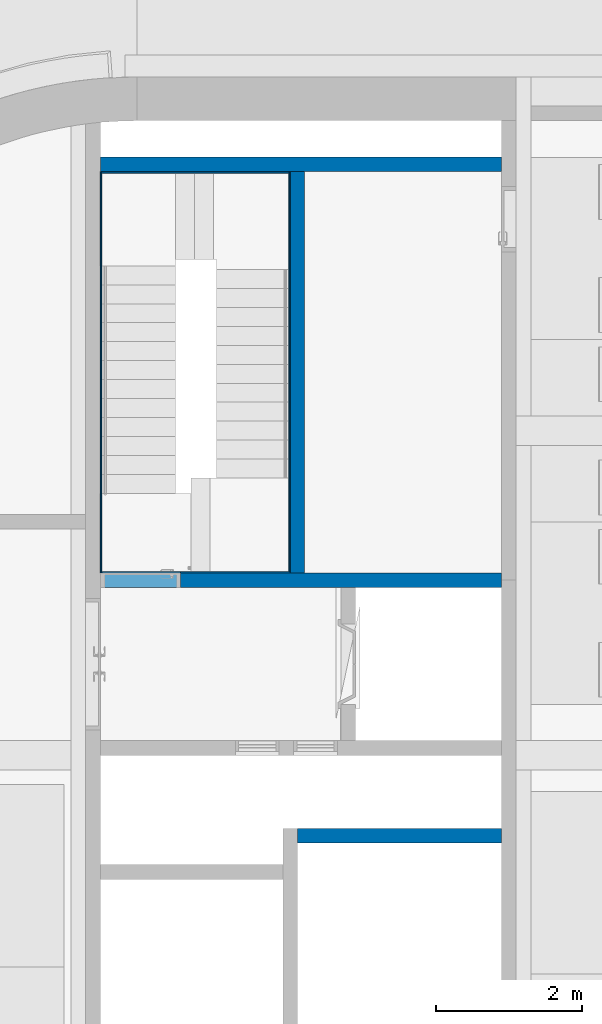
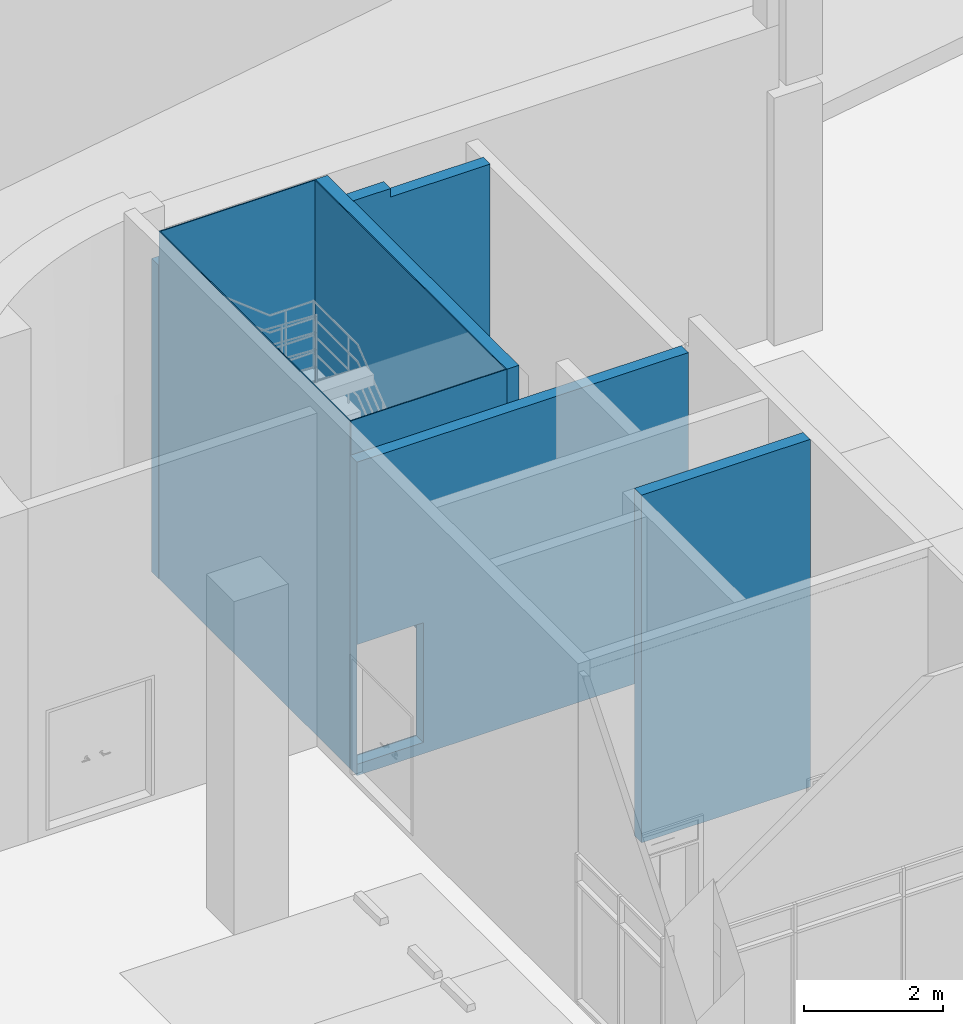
# One storey, part 12 of 29: 8 walls, 2 openings.
"""IFC2X3 building model written with IfcOpenShell, lengths in millimetres."""

from ifc_helpers import new_model, entity, si_unit, converted_unit, derived_unit, direction, frame, frame_2d, origin, place, context, subcontext, project, spatial, polyline, rectangle, extrude, clip, bounded_halfspace, material, layer, layer_set, layer_usage, type_object, element, save


model = new_model("IFC2X3")

# Units and contexts
model_context = context("Model", 3, precision=0.01, world=origin(), true_north=direction((6.123031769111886e-17, 1.0)))
body_context = subcontext(model_context, "Body", "Model", "MODEL_VIEW")
ifc_project = project(units=[si_unit("LENGTHUNIT", "METRE", prefix="MILLI"), si_unit("AREAUNIT", "SQUARE_METRE"), si_unit("VOLUMEUNIT", "CUBIC_METRE"), converted_unit("PLANEANGLEUNIT", "DEGREE", entity("IfcRatioMeasure", 0.017453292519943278), si_unit("PLANEANGLEUNIT", "RADIAN"), dimensions=[0, 0, 0, 0, 0, 0, 0]), si_unit("MASSUNIT", "GRAM", prefix="KILO"), derived_unit("MASSDENSITYUNIT", [(si_unit("MASSUNIT", "GRAM", prefix="KILO"), 1), (si_unit("LENGTHUNIT", "METRE"), -3)]), derived_unit("MOMENTOFINERTIAUNIT", [(si_unit("LENGTHUNIT", "METRE"), 4)]), si_unit("TIMEUNIT", "SECOND"), si_unit("FREQUENCYUNIT", "HERTZ"), si_unit("THERMODYNAMICTEMPERATUREUNIT", "DEGREE_CELSIUS"), derived_unit("THERMALTRANSMITTANCEUNIT", [(si_unit("MASSUNIT", "GRAM", prefix="KILO"), 1), (si_unit("THERMODYNAMICTEMPERATUREUNIT", "KELVIN"), -1), (si_unit("TIMEUNIT", "SECOND"), -3)]), derived_unit("VOLUMETRICFLOWRATEUNIT", [(si_unit("LENGTHUNIT", "METRE"), 3), (si_unit("TIMEUNIT", "SECOND"), -1)]), derived_unit("MASSFLOWRATEUNIT", [(si_unit("MASSUNIT", "GRAM", prefix="KILO"), 1), (si_unit("TIMEUNIT", "SECOND"), -1)]), derived_unit("ROTATIONALFREQUENCYUNIT", [(si_unit("TIMEUNIT", "SECOND"), -1)]), si_unit("ELECTRICCURRENTUNIT", "AMPERE"), si_unit("ELECTRICVOLTAGEUNIT", "VOLT"), si_unit("POWERUNIT", "WATT"), si_unit("FORCEUNIT", "NEWTON", prefix="KILO"), si_unit("ILLUMINANCEUNIT", "LUX"), si_unit("LUMINOUSFLUXUNIT", "LUMEN"), si_unit("LUMINOUSINTENSITYUNIT", "CANDELA"), derived_unit("USERDEFINED", [(si_unit("MASSUNIT", "GRAM", prefix="KILO"), -1), (si_unit("LENGTHUNIT", "METRE"), -2), (si_unit("TIMEUNIT", "SECOND"), 3), (si_unit("LUMINOUSFLUXUNIT", "LUMEN"), 1)]), derived_unit("SOUNDPOWERUNIT", [(si_unit("MASSUNIT", "GRAM", prefix="KILO"), 1), (si_unit("LENGTHUNIT", "METRE"), 2), (si_unit("TIMEUNIT", "SECOND"), -3)]), derived_unit("SOUNDPRESSUREUNIT", [(si_unit("MASSUNIT", "GRAM", prefix="KILO"), 1), (si_unit("LENGTHUNIT", "METRE"), -1), (si_unit("TIMEUNIT", "SECOND"), -2)]), derived_unit("LINEARVELOCITYUNIT", [(si_unit("LENGTHUNIT", "METRE"), 1), (si_unit("TIMEUNIT", "SECOND"), -1)]), si_unit("PRESSUREUNIT", "PASCAL"), derived_unit("USERDEFINED", [(si_unit("LENGTHUNIT", "METRE"), -2), (si_unit("MASSUNIT", "GRAM", prefix="KILO"), 1), (si_unit("TIMEUNIT", "SECOND"), -2)]), derived_unit("LINEARFORCEUNIT", [(si_unit("MASSUNIT", "GRAM", prefix="KILO"), 1), (si_unit("LENGTHUNIT", "METRE"), 1), (si_unit("TIMEUNIT", "SECOND"), -2), (si_unit("LENGTHUNIT", "METRE"), -1)]), derived_unit("PLANARFORCEUNIT", [(si_unit("MASSUNIT", "GRAM", prefix="KILO"), 1), (si_unit("LENGTHUNIT", "METRE"), 1), (si_unit("TIMEUNIT", "SECOND"), -2), (si_unit("LENGTHUNIT", "METRE"), -2)])], contexts=[model_context])

# Site, building, storey
site_placement = place(None, frame((-14167.972527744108, -657.2125860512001, 0.0)))
site = spatial("IfcSite", under=ifc_project, at=site_placement, Name="Default", CompositionType="ELEMENT")
building_placement = place(site_placement, origin())
building = spatial("IfcBuilding", under=site, at=building_placement, Name="Sample Building", CompositionType="ELEMENT")
storey_placement = place(building_placement, frame((0.0, 0.0, -6100.0)))
storey = spatial("IfcBuildingStorey", under=building, at=storey_placement, Name="지하1층", CompositionType="ELEMENT", Elevation=-6099.999999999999)

# Walls
ifc_material_1 = material(Name="KBIMS-콘크리트")
ifc_layer_1 = layer(ifc_material_1, 200.0)
ifc_layer_set_1 = layer_set([ifc_layer_1], Name="기본 벽:WA111-철근콘크리트구조 벽 200mm_CW1")
ifc_layer_usage_1 = layer_usage(ifc_layer_set_1, "AXIS2", "NEGATIVE", 100.0)
wall_type_1 = type_object("IfcWallType", Name="기본 벽:WA111-철근콘크리트구조 벽 200mm_CW1", PredefinedType="STANDARD", material=ifc_layer_set_1)
wall_1_placement = place(storey_placement, frame((30266.125814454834, 28057.212307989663, 0.0)))
element("IfcWallStandardCase", 1, at=wall_1_placement, inside=storey, type_object=wall_type_1, material=ifc_layer_usage_1, Name="기본 벽:WA111-철근콘크리트구조 벽 200mm_CW1", ObjectType="기본 벽:WA111-철근콘크리트구조 벽 200mm_CW1", context=body_context, shape_type="Clipping", body=[
    clip(clip(extrude(rectangle(XDim=5501.846676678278, YDim=199.99999999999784, at=frame_2d((2750.923338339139, 0.0), x_axis=(-1.0, 0.0))), origin(), (0.0, 0.0, 1.0), 5500.0), bounded_halfspace(frame((3850.4073795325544, 100.0, 5350.0), z_axis=(0.0, 0.0, -1.0), x_axis=(0.0, 1.0, 0.0)), True, frame((3850.4073795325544, 100.0, 5350.0), z_axis=(0.0, 0.0, -1.0), x_axis=(0.0, 1.0, 0.0)), polyline([(0.0, 0.0), (0.0, 503358.6977700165), (-60960.0, 503358.6977700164), (-60960.0, 0.0), (0.0, 0.0)]))), bounded_halfspace(frame((3850.4073795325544, -100.0, 5350.0), z_axis=(-1.0, 0.0, 0.0), x_axis=(0.0, 0.0, 1.0)), True, frame((3850.4073795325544, -100.0, 5350.0), z_axis=(-1.0, 0.0, 0.0), x_axis=(0.0, 0.0, 1.0)), polyline([(0.0, 0.0), (45720.0, 0.0), (45720.0, 60960.0), (0.0, 60960.0), (0.0, 0.0)]))),
])
ifc_layer_usage_2 = layer_usage(ifc_layer_set_1, "AXIS2", "NEGATIVE", 100.0)
wall_2_placement = place(storey_placement, frame((32967.97249113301, 27957.212307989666, 0.0), z_axis=(0.0, 0.0, 1.0), x_axis=(0.0, -1.0, 0.0)))
element("IfcWallStandardCase", 2, at=wall_2_placement, inside=storey, type_object=wall_type_1, material=ifc_layer_usage_2, Name="기본 벽:WA111-철근콘크리트구조 벽 200mm_CW1", ObjectType="기본 벽:WA111-철근콘크리트구조 벽 200mm_CW1", context=body_context, shape_type="SweptSolid", body=[
    extrude(rectangle(XDim=5499.999996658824, YDim=199.99999999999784, at=frame_2d((2749.999998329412, -4.263256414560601e-14), x_axis=(-1.0, 0.0))), origin(), (0.0, 0.0, 1.0), 6100.0),
])

# Wall, opening
ifc_layer_2 = layer(ifc_material_1, 200.0)
ifc_layer_set_2 = layer_set([ifc_layer_2], Name="기본 벽:WA111-철근콘크리트구조 벽 200mm_CW2")
ifc_layer_usage_3 = layer_usage(ifc_layer_set_2, "AXIS2", "NEGATIVE", 100.0)
wall_type_2 = type_object("IfcWallType", Name="기본 벽:WA111-철근콘크리트구조 벽 200mm_CW2", PredefinedType="STANDARD", material=ifc_layer_set_2)
wall_3_placement = place(storey_placement, frame((30266.125814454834, 22357.21231133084, 0.0)))
wall_3 = element("IfcWallStandardCase", 3, at=wall_3_placement, inside=storey, type_object=wall_type_2, material=ifc_layer_usage_3, Name="기본 벽:WA111-철근콘크리트구조 벽 200mm_CW2", ObjectType="기본 벽:WA111-철근콘크리트구조 벽 200mm_CW2", context=body_context, shape_type="SweptSolid", body=[
    extrude(rectangle(XDim=5501.846676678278, YDim=199.99999999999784, at=frame_2d((2750.923338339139, 0.0), x_axis=(-1.0, 0.0))), origin(), (0.0, 0.0, 1.0), 5500.0),
])
opening_1_placement = place(wall_3_placement, frame((1.8466235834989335, -100.0, 200.0)))
element("IfcOpeningElement", 4, at=opening_1_placement, cuts=wall_3, Name="DR111-외여닫이문(철재, 일반):DR111-외여닫이문(철재, 일반) 1100x2100mm 2:1", ObjectType="Opening", context=body_context, shape_type="SweptSolid", body=[
    extrude(rectangle(XDim=2099.999999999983, YDim=1100.0, at=frame_2d((1049.9999999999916, 550.0000000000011), x_axis=(1.0, 0.0))), frame((0.0, 0.0, 0.0), z_axis=(0.0, 1.0, 0.0), x_axis=(0.0, 0.0, 1.0)), (0.0, 0.0, 1.0), 200.0),
])

# Walls
ifc_layer_usage_4 = layer_usage(ifc_layer_set_2, "AXIS2", "NEGATIVE", 100.0)
wall_4_placement = place(storey_placement, frame((32967.97271708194, 18857.21230965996, 0.0)))
element("IfcWallStandardCase", 5, at=wall_4_placement, inside=storey, type_object=wall_type_2, material=ifc_layer_usage_4, Name="기본 벽:WA111-철근콘크리트구조 벽 200mm_CW2", ObjectType="기본 벽:WA111-철근콘크리트구조 벽 200mm_CW2", context=body_context, shape_type="SweptSolid", body=[
    extrude(rectangle(XDim=2799.999774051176, YDim=200.0, at=frame_2d((1399.999887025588, -1.0871303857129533e-12), x_axis=(-1.0, 0.0))), origin(), (0.0, 0.0, 1.0), 6100.0),
])
ifc_material_2 = material(Name="WA611-수성페인트 (내부) 벽 (3회)")
ifc_layer_3 = layer(ifc_material_2, 1.0)
ifc_material_3 = material(Name="WA551-시멘트모르타르 (내부) 벽 18mm")
ifc_layer_4 = layer(ifc_material_3, 16.0)
ifc_material_4 = material(Name="WA555-콘크리트면정리 벽 (내부)")
ifc_layer_5 = layer(ifc_material_4, 1.0)
ifc_layer_set_3 = layer_set([ifc_layer_3, ifc_layer_4, ifc_layer_5], Name="기본 벽:A1-32-06A-콘크리트면정리, 시멘트모르타르(미장용), 수성페인트(내부) (18mm)")
ifc_layer_usage_5 = layer_usage(ifc_layer_set_3, "AXIS2", "POSITIVE", -9.000000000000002)
wall_type_3 = type_object("IfcWallType", Name="기본 벽:A1-32-06A-콘크리트면정리, 시멘트모르타르(미장용), 수성페인트(내부) (18mm)", PredefinedType="STANDARD", material=ifc_layer_set_3)
wall_5_placement = place(storey_placement, frame((30276.963761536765, 22457.194894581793, 0.0), z_axis=(0.0, 0.0, 1.0), x_axis=(0.0, 1.0, 0.0)))
element("IfcWallStandardCase", 6, at=wall_5_placement, inside=storey, type_object=wall_type_3, material=ifc_layer_usage_5, Name="기본 벽:A1-32-06A-콘크리트면정리, 시멘트모르타르(미장용), 수성페인트(내부) (18mm)", ObjectType="기본 벽:A1-32-06A-콘크리트면정리, 시멘트모르타르(미장용), 수성페인트(내부) (18mm)", context=body_context, shape_type="SweptSolid", body=[
    extrude(rectangle(XDim=5499.999996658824, YDim=18.00000000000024, at=frame_2d((2749.999998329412, -2.1662671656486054e-12), x_axis=(-1.0, 0.0))), origin(), (0.0, 0.0, 1.0), 6099.999999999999),
])

# Wall, opening
ifc_layer_usage_6 = layer_usage(ifc_layer_set_3, "AXIS2", "POSITIVE", -9.000000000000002)
wall_6_placement = place(storey_placement, frame((32867.97249113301, 22466.19489458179, 0.0), z_axis=(0.0, 0.0, 1.0), x_axis=(-1.0, 0.0, 0.0)))
wall_6 = element("IfcWallStandardCase", 7, at=wall_6_placement, inside=storey, type_object=wall_type_3, material=ifc_layer_usage_6, Name="기본 벽:A1-32-06A-콘크리트면정리, 시멘트모르타르(미장용), 수성페인트(내부) (18mm)", ObjectType="기본 벽:A1-32-06A-콘크리트면정리, 시멘트모르타르(미장용), 수성페인트(내부) (18mm)", context=body_context, shape_type="SweptSolid", body=[
    extrude(rectangle(XDim=2582.008729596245, YDim=18.00000000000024, at=frame_2d((1291.0043647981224, -2.1662671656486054e-12), x_axis=(-1.0, 0.0))), origin(), (0.0, 0.0, 1.0), 6099.999999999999),
])
opening_2_placement = place(wall_6_placement, origin())
element("IfcOpeningElement", 8, at=opening_2_placement, cuts=wall_6, Name="기본 벽:A1-32-06A-콘크리트면정리, 시멘트모르타르(미장용), 수성페인트(내부) (18mm)", ObjectType="Opening", context=body_context, shape_type="SweptSolid", body=[
    extrude(rectangle(XDim=2099.9999999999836, YDim=1100.0000000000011, at=frame_2d((0.0, 3.410605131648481e-13), x_axis=(0.0, 1.0))), frame((2050.000053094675, -1315.0174167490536, 1250.0), z_axis=(0.0, 1.0, 0.0), x_axis=(-1.0, 0.0, 0.0)), (0.0, 0.0, 1.0), 3048.0),
])

# Walls
ifc_layer_usage_7 = layer_usage(ifc_layer_set_3, "AXIS2", "POSITIVE", -9.000000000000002)
wall_7_placement = place(storey_placement, frame((32858.97249113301, 27957.194891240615, 0.0), z_axis=(0.0, 0.0, 1.0), x_axis=(0.0, -1.0, 0.0)))
element("IfcWallStandardCase", 9, at=wall_7_placement, inside=storey, type_object=wall_type_3, material=ifc_layer_usage_7, Name="기본 벽:A1-32-06A-콘크리트면정리, 시멘트모르타르(미장용), 수성페인트(내부) (18mm)", ObjectType="기본 벽:A1-32-06A-콘크리트면정리, 시멘트모르타르(미장용), 수성페인트(내부) (18mm)", context=body_context, shape_type="SweptSolid", body=[
    extrude(rectangle(XDim=5481.999996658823, YDim=18.00000000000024, at=frame_2d((2740.9999983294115, -2.1662671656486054e-12), x_axis=(-1.0, 0.0))), origin(), (0.0, 0.0, 1.0), 6099.999999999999),
])
ifc_layer_usage_8 = layer_usage(ifc_layer_set_3, "AXIS2", "POSITIVE", -9.000000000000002)
wall_8_placement = place(storey_placement, frame((30285.963761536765, 27948.19489124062, 0.0)))
element("IfcWallStandardCase", 10, at=wall_8_placement, inside=storey, type_object=wall_type_3, material=ifc_layer_usage_8, Name="기본 벽:A1-32-06A-콘크리트면정리, 시멘트모르타르(미장용), 수성페인트(내부) (18mm)", ObjectType="기본 벽:A1-32-06A-콘크리트면정리, 시멘트모르타르(미장용), 수성페인트(내부) (18mm)", context=body_context, shape_type="SweptSolid", body=[
    extrude(rectangle(XDim=2564.008729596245, YDim=18.00000000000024, at=frame_2d((1282.0043647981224, -2.1662671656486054e-12), x_axis=(-1.0, 0.0))), origin(), (0.0, 0.0, 1.0), 6099.999999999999),
])

save(model, "model.ifc")
